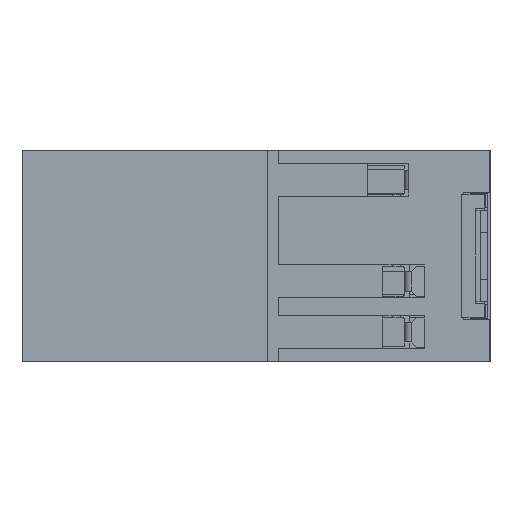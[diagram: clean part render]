
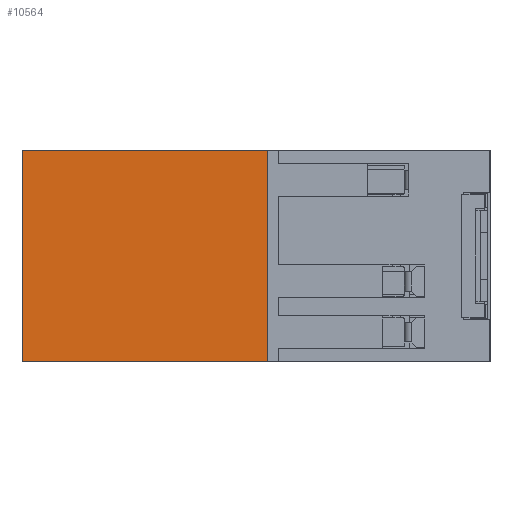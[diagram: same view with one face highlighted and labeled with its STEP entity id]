
A CAD part, left-side view. The second image highlights one B-rep face of the part: STEP entity #10564.
In plain terms, the highlighted planar face has unit normal (-1, 0, 0) as drawn and (1, 0, 0) by its records, which use the part's own axes.
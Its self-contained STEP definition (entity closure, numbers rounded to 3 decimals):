
#2797=LINE('',#46186,#6819);
#3047=LINE('',#46760,#7069);
#3052=LINE('',#46776,#7074);
#3059=LINE('',#46789,#7081);
#3073=LINE('',#46814,#7095);
#3105=LINE('',#46871,#7127);
#3108=LINE('',#46882,#7130);
#3109=LINE('',#46884,#7131);
#6819=VECTOR('',#37144,1.);
#7069=VECTOR('',#37610,1.);
#7074=VECTOR('',#37625,1.);
#7081=VECTOR('',#37634,1.);
#7095=VECTOR('',#37650,1.);
#7127=VECTOR('',#37686,1.);
#7130=VECTOR('',#37699,1.);
#7131=VECTOR('',#37702,1.);
#10564=ADVANCED_FACE('',(#13604),#12195,.T.);
#12195=PLANE('',#33829);
#13604=FACE_OUTER_BOUND('',#15162,.T.);
#15162=EDGE_LOOP('',(#18641,#18642,#18643,#18644,#18645,#18646,#18647,#18648));
#18641=ORIENTED_EDGE('',*,*,#30123,.F.);
#18642=ORIENTED_EDGE('',*,*,#30169,.F.);
#18643=ORIENTED_EDGE('',*,*,#30176,.T.);
#18644=ORIENTED_EDGE('',*,*,#30108,.F.);
#18645=ORIENTED_EDGE('',*,*,#30137,.F.);
#18646=ORIENTED_EDGE('',*,*,#30175,.T.);
#18647=ORIENTED_EDGE('',*,*,#29823,.T.);
#18648=ORIENTED_EDGE('',*,*,#30116,.T.);
#26676=VERTEX_POINT('',#46185);
#26677=VERTEX_POINT('',#46187);
#26842=VERTEX_POINT('',#46759);
#26843=VERTEX_POINT('',#46761);
#26848=VERTEX_POINT('',#46775);
#26853=VERTEX_POINT('',#46788);
#26863=VERTEX_POINT('',#46813);
#26886=VERTEX_POINT('',#46870);
#29823=EDGE_CURVE('',#26677,#26676,#2797,.T.);
#30108=EDGE_CURVE('',#26842,#26843,#3047,.T.);
#30116=EDGE_CURVE('',#26676,#26848,#3052,.T.);
#30123=EDGE_CURVE('',#26853,#26848,#3059,.T.);
#30137=EDGE_CURVE('',#26863,#26842,#3073,.T.);
#30169=EDGE_CURVE('',#26886,#26853,#3105,.T.);
#30175=EDGE_CURVE('',#26863,#26677,#3108,.T.);
#30176=EDGE_CURVE('',#26886,#26843,#3109,.T.);
#33829=AXIS2_PLACEMENT_3D('',#46885,#37703,#37704);
#37144=DIRECTION('',(0.,0.,-1.));
#37610=DIRECTION('',(0.,-1.,0.));
#37625=DIRECTION('',(0.,1.,0.));
#37634=DIRECTION('',(0.,0.,-1.));
#37650=DIRECTION('',(0.,0.,-1.));
#37686=DIRECTION('',(0.,-1.,0.));
#37699=DIRECTION('',(0.,-1.,0.));
#37702=DIRECTION('',(0.,0.,-1.));
#37703=DIRECTION('',(1.,0.,0.));
#37704=DIRECTION('',(0.,0.,-1.));
#46185=CARTESIAN_POINT('',(25.9,0.,21.8));
#46186=CARTESIAN_POINT('',(25.9,0.,61.1));
#46187=CARTESIAN_POINT('',(25.9,0.,61.1));
#46759=CARTESIAN_POINT('',(25.9,27.6,21.8));
#46760=CARTESIAN_POINT('',(25.9,24.7,21.8));
#46761=CARTESIAN_POINT('',(25.9,24.7,21.8));
#46775=CARTESIAN_POINT('',(25.9,2.9,21.8));
#46776=CARTESIAN_POINT('',(25.9,2.9,21.8));
#46788=CARTESIAN_POINT('',(25.9,2.9,29.1));
#46789=CARTESIAN_POINT('',(25.9,2.9,29.1));
#46813=CARTESIAN_POINT('',(25.9,27.6,61.1));
#46814=CARTESIAN_POINT('',(25.9,27.6,61.1));
#46870=CARTESIAN_POINT('',(25.9,24.7,29.1));
#46871=CARTESIAN_POINT('',(25.9,27.6,29.1));
#46882=CARTESIAN_POINT('',(25.9,27.6,61.1));
#46884=CARTESIAN_POINT('',(25.9,24.7,29.1));
#46885=CARTESIAN_POINT('',(25.9,27.6,61.1));
